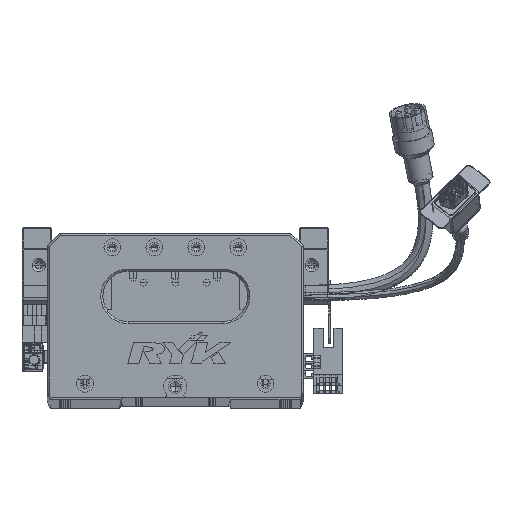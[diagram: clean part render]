
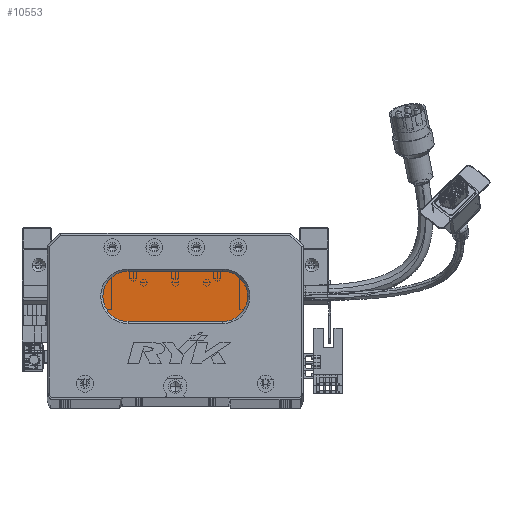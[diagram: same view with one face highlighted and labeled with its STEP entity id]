
A CAD part, top view. The second image highlights one B-rep face of the part: STEP entity #10553.
In plain terms, the highlighted planar face has unit normal (0, 0, 1) as drawn and (0, 0, -1) by its records, which use the part's own axes.
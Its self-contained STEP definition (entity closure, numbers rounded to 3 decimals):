
#689 = VERTEX_POINT ( 'NONE', #105894 ) ;
#1202 = DIRECTION ( 'NONE',  ( -1., 0., 0. ) ) ;
#6246 = DIRECTION ( 'NONE',  ( 1., 0., 0. ) ) ;
#6900 = CARTESIAN_POINT ( 'NONE',  ( 83.5, 36., 13. ) ) ;
#8905 = AXIS2_PLACEMENT_3D ( 'NONE', #25973, #53621, #82479 ) ;
#9458 = DIRECTION ( 'NONE',  ( 0., 0., -1. ) ) ;
#9701 = VERTEX_POINT ( 'NONE', #104683 ) ;
#10553 = ADVANCED_FACE ( 'NONE', ( #67333 ), #99981, .T. ) ;
#13143 = ORIENTED_EDGE ( 'NONE', *, *, #92775, .T. ) ;
#14880 = EDGE_CURVE ( 'NONE', #70122, #52335, #108776, .T. ) ;
#17400 = CIRCLE ( 'NONE', #53486, 12. ) ;
#19430 = DIRECTION ( 'NONE',  ( -1., 0., 0. ) ) ;
#20717 = CARTESIAN_POINT ( 'NONE',  ( 83.5, 48., 13. ) ) ;
#25973 = CARTESIAN_POINT ( 'NONE',  ( 83.5, 48., 13. ) ) ;
#26196 = EDGE_CURVE ( 'NONE', #689, #70122, #73788, .T. ) ;
#28702 = AXIS2_PLACEMENT_3D ( 'NONE', #110691, #9458, #84215 ) ;
#30063 = DIRECTION ( 'NONE',  ( 0., 0., -1. ) ) ;
#34525 = EDGE_CURVE ( 'NONE', #52335, #102585, #115293, .T. ) ;
#36532 = CARTESIAN_POINT ( 'NONE',  ( 83.5, 36., 13. ) ) ;
#37298 = CARTESIAN_POINT ( 'NONE',  ( 38.5, 48., 13. ) ) ;
#39417 = DIRECTION ( 'NONE',  ( -1., 0., 0. ) ) ;
#40950 = CARTESIAN_POINT ( 'NONE',  ( 38.5, 36., 13. ) ) ;
#47979 = ORIENTED_EDGE ( 'NONE', *, *, #34525, .T. ) ;
#48358 = ORIENTED_EDGE ( 'NONE', *, *, #53852, .T. ) ;
#52335 = VERTEX_POINT ( 'NONE', #40950 ) ;
#53486 = AXIS2_PLACEMENT_3D ( 'NONE', #37298, #83646, #19430 ) ;
#53621 = DIRECTION ( 'NONE',  ( 0., 0., -1. ) ) ;
#53852 = EDGE_CURVE ( 'NONE', #102585, #9701, #17400, .T. ) ;
#61115 = CARTESIAN_POINT ( 'NONE',  ( 83.5, 60., 13. ) ) ;
#64139 = ORIENTED_EDGE ( 'NONE', *, *, #14880, .T. ) ;
#65815 = VECTOR ( 'NONE', #6246, 1000. ) ;
#67333 = FACE_OUTER_BOUND ( 'NONE', #69765, .T. ) ;
#68080 = VECTOR ( 'NONE', #1202, 1000. ) ;
#69765 = EDGE_LOOP ( 'NONE', ( #108802, #64139, #47979, #48358, #13143 ) ) ;
#70122 = VERTEX_POINT ( 'NONE', #6900 ) ;
#73788 = CIRCLE ( 'NONE', #75743, 12. ) ;
#75743 = AXIS2_PLACEMENT_3D ( 'NONE', #20717, #30063, #39417 ) ;
#82479 = DIRECTION ( 'NONE',  ( -1., 0., 0. ) ) ;
#83646 = DIRECTION ( 'NONE',  ( 0., 0., -1. ) ) ;
#84215 = DIRECTION ( 'NONE',  ( -1., 0., 0. ) ) ;
#92775 = EDGE_CURVE ( 'NONE', #9701, #689, #115271, .T. ) ;
#99981 = PLANE ( 'NONE',  #8905 ) ;
#102585 = VERTEX_POINT ( 'NONE', #107856 ) ;
#104683 = CARTESIAN_POINT ( 'NONE',  ( 38.5, 60., 13. ) ) ;
#105894 = CARTESIAN_POINT ( 'NONE',  ( 83.5, 60., 13. ) ) ;
#107856 = CARTESIAN_POINT ( 'NONE',  ( 26.5, 48., 13. ) ) ;
#108776 = LINE ( 'NONE', #36532, #68080 ) ;
#108802 = ORIENTED_EDGE ( 'NONE', *, *, #26196, .T. ) ;
#110691 = CARTESIAN_POINT ( 'NONE',  ( 38.5, 48., 13. ) ) ;
#115271 = LINE ( 'NONE', #61115, #65815 ) ;
#115293 = CIRCLE ( 'NONE', #28702, 12. ) ;
